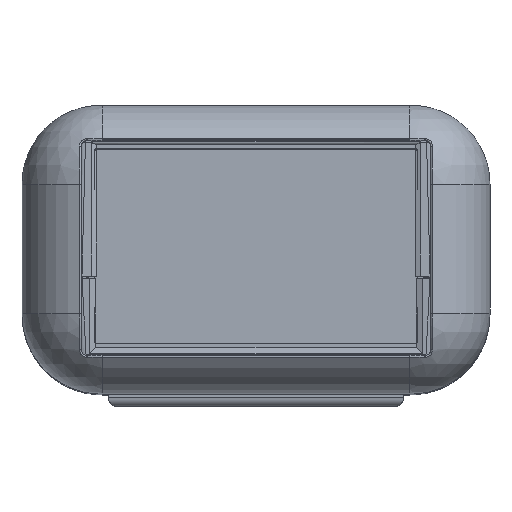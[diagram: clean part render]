
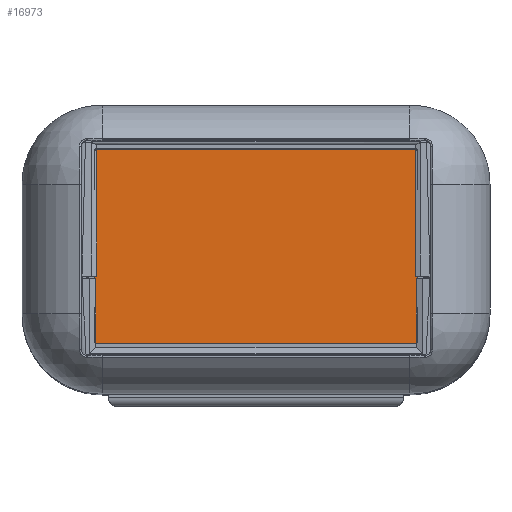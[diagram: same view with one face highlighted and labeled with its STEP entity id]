
A CAD part, top view. The second image highlights one B-rep face of the part: STEP entity #16973.
In plain terms, the highlighted planar face has unit normal (0, 0, 1).
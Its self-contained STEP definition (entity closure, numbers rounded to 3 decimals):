
#636 = CARTESIAN_POINT ( 'NONE',  ( 26.28, -15.77, 2.5 ) ) ;
#919 = VECTOR ( 'NONE', #20751, 1000. ) ;
#1012 = VERTEX_POINT ( 'NONE', #18927 ) ;
#1345 = CIRCLE ( 'NONE', #3813, 0.42 ) ;
#1476 = CARTESIAN_POINT ( 'NONE',  ( 26.195, -15.35, 2.5 ) ) ;
#1844 = CIRCLE ( 'NONE', #20143, 0.42 ) ;
#1927 = LINE ( 'NONE', #2272, #23699 ) ;
#2251 = EDGE_CURVE ( 'NONE', #19215, #7515, #6929, .T. ) ;
#2272 = CARTESIAN_POINT ( 'NONE',  ( 26.28, 15.77, 2.5 ) ) ;
#2755 = DIRECTION ( 'NONE',  ( 1., 0., 0. ) ) ;
#3109 = DIRECTION ( 'NONE',  ( 0., -1., 0. ) ) ;
#3113 = CARTESIAN_POINT ( 'NONE',  ( -25.775, 15.35, 2.5 ) ) ;
#3174 = FACE_OUTER_BOUND ( 'NONE', #10478, .T. ) ;
#3248 = DIRECTION ( 'NONE',  ( 1., 0., 0. ) ) ;
#3813 = AXIS2_PLACEMENT_3D ( 'NONE', #24403, #11829, #26517 ) ;
#4403 = DIRECTION ( 'NONE',  ( -1., 0., 0. ) ) ;
#4466 = EDGE_CURVE ( 'NONE', #7515, #1012, #17667, .T. ) ;
#5250 = DIRECTION ( 'NONE',  ( 1., 0., 0. ) ) ;
#6189 = CARTESIAN_POINT ( 'NONE',  ( -25.775, -15.35, 2.5 ) ) ;
#6476 = VECTOR ( 'NONE', #3109, 1000. ) ;
#6667 = CARTESIAN_POINT ( 'NONE',  ( 26.195, 15.35, 2.5 ) ) ;
#6887 = ORIENTED_EDGE ( 'NONE', *, *, #17021, .T. ) ;
#6929 = CIRCLE ( 'NONE', #12878, 0.42 ) ;
#7515 = VERTEX_POINT ( 'NONE', #9424 ) ;
#7664 = DIRECTION ( 'NONE',  ( 0., 0., 1. ) ) ;
#7690 = ORIENTED_EDGE ( 'NONE', *, *, #8213, .T. ) ;
#8213 = EDGE_CURVE ( 'NONE', #21145, #19215, #1927, .T. ) ;
#8272 = DIRECTION ( 'NONE',  ( 1., 0., 0. ) ) ;
#9424 = CARTESIAN_POINT ( 'NONE',  ( -26.195, 15.35, 2.5 ) ) ;
#9441 = ORIENTED_EDGE ( 'NONE', *, *, #18780, .T. ) ;
#9759 = CARTESIAN_POINT ( 'NONE',  ( -25.775, 15.77, 2.5 ) ) ;
#10247 = CARTESIAN_POINT ( 'NONE',  ( 26.195, -16.35, 2.5 ) ) ;
#10276 = AXIS2_PLACEMENT_3D ( 'NONE', #6189, #20913, #8272 ) ;
#10478 = EDGE_LOOP ( 'NONE', ( #13290, #9441, #19261, #18856, #12154, #6887, #7690, #23931 ) ) ;
#11711 = CARTESIAN_POINT ( 'NONE',  ( -26.195, -16.35, 2.5 ) ) ;
#11829 = DIRECTION ( 'NONE',  ( 0., 0., 1. ) ) ;
#12154 = ORIENTED_EDGE ( 'NONE', *, *, #26814, .T. ) ;
#12156 = LINE ( 'NONE', #10247, #919 ) ;
#12878 = AXIS2_PLACEMENT_3D ( 'NONE', #3113, #17843, #5250 ) ;
#12892 = CARTESIAN_POINT ( 'NONE',  ( 25.775, 15.77, 2.5 ) ) ;
#13290 = ORIENTED_EDGE ( 'NONE', *, *, #4466, .T. ) ;
#13325 = VERTEX_POINT ( 'NONE', #6667 ) ;
#13542 = EDGE_CURVE ( 'NONE', #23476, #20876, #1345, .T. ) ;
#13748 = CARTESIAN_POINT ( 'NONE',  ( 26.28, -16.35, 2.5 ) ) ;
#15633 = CARTESIAN_POINT ( 'NONE',  ( -25.775, -15.77, 2.5 ) ) ;
#15660 = CIRCLE ( 'NONE', #10276, 0.42 ) ;
#15856 = DIRECTION ( 'NONE',  ( 0., 0., 1. ) ) ;
#16973 = ADVANCED_FACE ( 'NONE', ( #3174 ), #17897, .T. ) ;
#17021 = EDGE_CURVE ( 'NONE', #13325, #21145, #1844, .T. ) ;
#17189 = CARTESIAN_POINT ( 'NONE',  ( 25.775, -15.77, 2.5 ) ) ;
#17667 = LINE ( 'NONE', #11711, #6476 ) ;
#17843 = DIRECTION ( 'NONE',  ( 0., 0., 1. ) ) ;
#17897 = PLANE ( 'NONE',  #21546 ) ;
#18780 = EDGE_CURVE ( 'NONE', #1012, #23636, #15660, .T. ) ;
#18856 = ORIENTED_EDGE ( 'NONE', *, *, #13542, .T. ) ;
#18927 = CARTESIAN_POINT ( 'NONE',  ( -26.195, -15.35, 2.5 ) ) ;
#19215 = VERTEX_POINT ( 'NONE', #9759 ) ;
#19261 = ORIENTED_EDGE ( 'NONE', *, *, #19543, .T. ) ;
#19543 = EDGE_CURVE ( 'NONE', #23636, #23476, #19598, .T. ) ;
#19598 = LINE ( 'NONE', #636, #20244 ) ;
#20143 = AXIS2_PLACEMENT_3D ( 'NONE', #20300, #7664, #22387 ) ;
#20244 = VECTOR ( 'NONE', #2755, 1000. ) ;
#20300 = CARTESIAN_POINT ( 'NONE',  ( 25.775, 15.35, 2.5 ) ) ;
#20751 = DIRECTION ( 'NONE',  ( 0., 1., 0. ) ) ;
#20876 = VERTEX_POINT ( 'NONE', #1476 ) ;
#20913 = DIRECTION ( 'NONE',  ( 0., 0., 1. ) ) ;
#21145 = VERTEX_POINT ( 'NONE', #12892 ) ;
#21546 = AXIS2_PLACEMENT_3D ( 'NONE', #13748, #15856, #3248 ) ;
#22387 = DIRECTION ( 'NONE',  ( 1., 0., 0. ) ) ;
#23476 = VERTEX_POINT ( 'NONE', #17189 ) ;
#23636 = VERTEX_POINT ( 'NONE', #15633 ) ;
#23699 = VECTOR ( 'NONE', #4403, 1000. ) ;
#23931 = ORIENTED_EDGE ( 'NONE', *, *, #2251, .T. ) ;
#24403 = CARTESIAN_POINT ( 'NONE',  ( 25.775, -15.35, 2.5 ) ) ;
#26517 = DIRECTION ( 'NONE',  ( 1., 0., 0. ) ) ;
#26814 = EDGE_CURVE ( 'NONE', #20876, #13325, #12156, .T. ) ;
